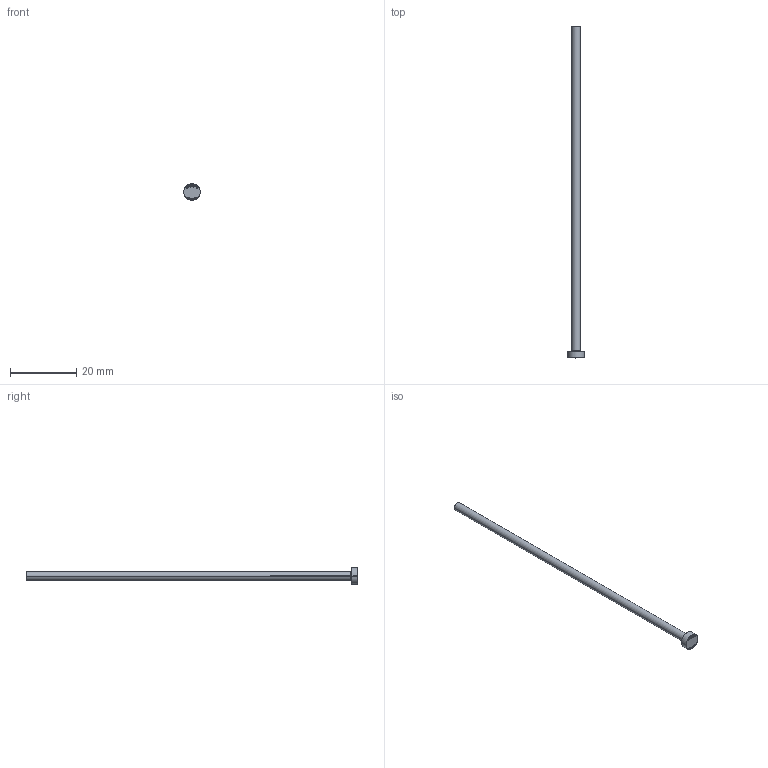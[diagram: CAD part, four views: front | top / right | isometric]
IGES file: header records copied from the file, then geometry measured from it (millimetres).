
Start section: SolidWorks IGES file using analytic representation for surfaces
Global section: file name: C:\Users\User\Downloads\Matripeça 31-08 tar\PB - PINO EXTRATOR TIPO _B_ (CATÁLOGO)\PB02,5\PB02,5100.IGS; native system: SolidWorks 2024; preprocessor: SolidWorks 2024; author: User; date: 260901.140815; units: millimetre
Bounding box: 5 x 100 x 5 mm (x, y, z)
Surface area: 843.3 mm2 (no closed solid volume)
Topology: 0 solids, 0 shells, 398 faces, 3018 edges, 3018 vertices
Faces by surface type: bspline 384, revolution 14
